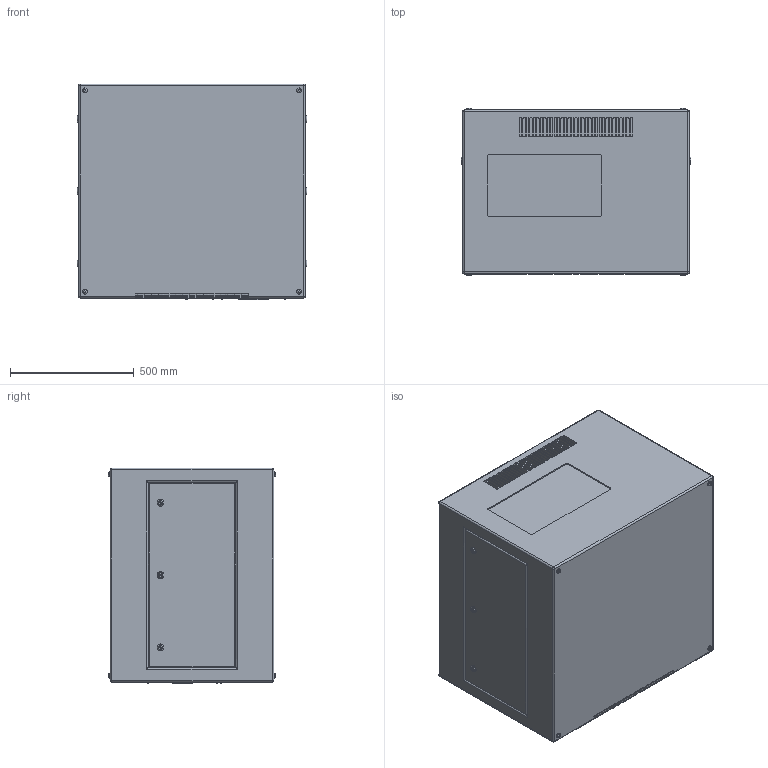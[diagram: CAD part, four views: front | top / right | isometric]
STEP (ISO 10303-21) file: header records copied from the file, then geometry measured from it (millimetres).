
FILE_DESCRIPTION (( 'STEP AP214' ), '1' );
FILE_NAME ('Zen 57.200.L R11.STEP', '2022-09-15T21:13:42', ( '' ), ( '' ), 'SwSTEP 2.0', 'SolidWorks 2020', '' );
FILE_SCHEMA (( 'AUTOMOTIVE_DESIGN' ));
Length unit declared in the file: inch
Products named in the file (1): Zen 57.200.L R11
Bounding box: 927.1 x 675.02 x 871.22 mm (x, y, z)
Volume: 520112677.9 mm3; surface area: 4207884.5 mm2
Topology: 1 solids, 5 shells, 1098 faces, 2776 edges, 1706 vertices
Faces by surface type: plane 498, cylinder 478, sphere 74, torus 48
Entity records: 36106 total; most frequent: CARTESIAN_POINT 6003, DIRECTION 5824, ORIENTED_EDGE 5404, EDGE_CURVE 2702, AXIS2_PLACEMENT_3D 2103, VERTEX_POINT 1706, VECTOR 1618, LINE 1618
